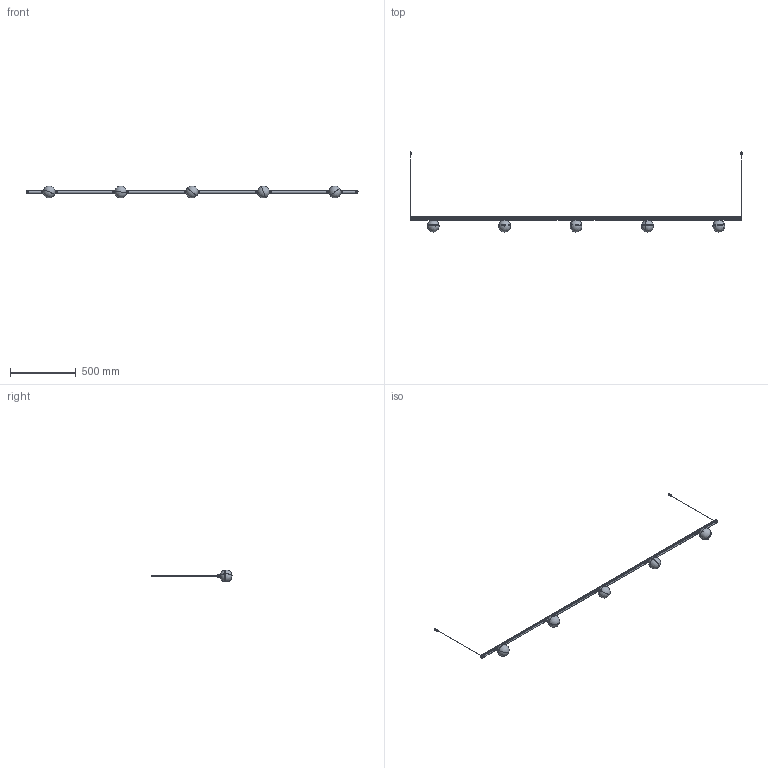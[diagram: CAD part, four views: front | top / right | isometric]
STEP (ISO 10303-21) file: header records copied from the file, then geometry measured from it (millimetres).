
FILE_DESCRIPTION (( 'STEP AP214' ), '1' );
FILE_NAME ('BALO 25.STEP', '2024-05-31T09:02:33', ( '' ), ( '' ), 'SwSTEP 2.0', 'SolidWorks 2024', '' );
FILE_SCHEMA (( 'AUTOMOTIVE_DESIGN' ));
Length unit declared in the file: millimetre
Products named in the file (1): BALO 25
Bounding box: 2533.49 x 610.98 x 89.97 mm (x, y, z)
Volume: 786700.7 mm3; surface area: 871775.6 mm2
Topology: 10 solids, 40 shells, 4556 faces, 12044 edges, 7457 vertices
Faces by surface type: plane 1979, cylinder 1534, bspline 424, torus 340, sphere 174, cone 105
Entity records: 167738 total; most frequent: CARTESIAN_POINT 57497, ORIENTED_EDGE 23752, DIRECTION 22510, EDGE_CURVE 11876, AXIS2_PLACEMENT_3D 7974, VERTEX_POINT 7409, VECTOR 6562, LINE 6562
